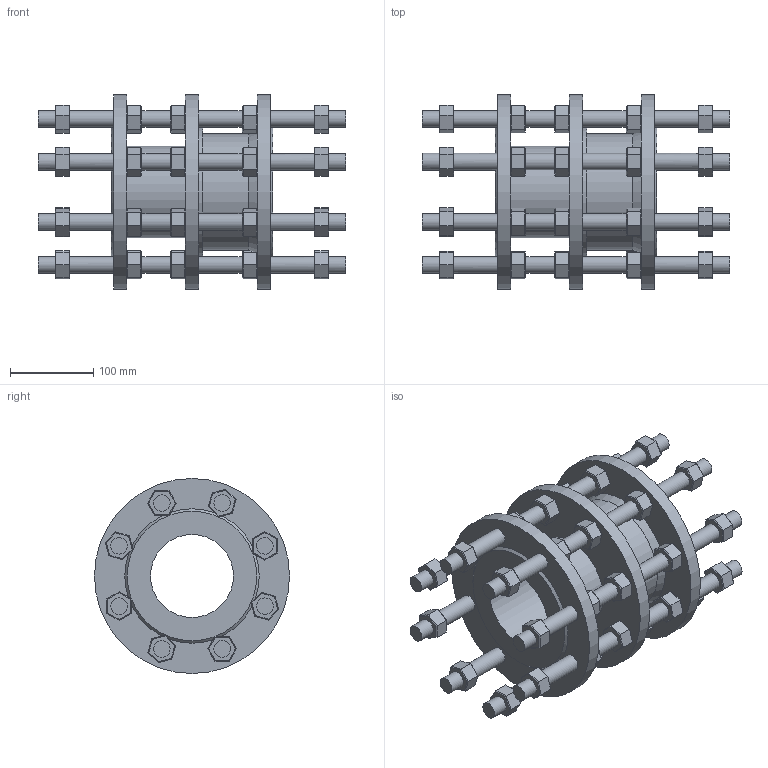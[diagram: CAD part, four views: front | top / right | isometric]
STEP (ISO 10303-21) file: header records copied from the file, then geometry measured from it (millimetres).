
FILE_DESCRIPTION (( 'STEP AP203' ), '1' );
FILE_NAME ('873010000741000.STEP', '2021-11-05T08:14:50', ( '' ), ( '' ), 'SwSTEP 2.0', 'SolidWorks 2020', '' );
FILE_SCHEMA (( 'CONFIG_CONTROL_DESIGN' ));
Length unit declared in the file: millimetre
Products named in the file (1): 873010000741000
Bounding box: 370 x 235 x 235 mm (x, y, z)
Volume: 3634143.8 mm3; surface area: 650116.3 mm2
Topology: 41 solids, 41 shells, 987 faces, 2115 edges, 1233 vertices
Faces by surface type: plane 825, cone 83, cylinder 79
Full cylindrical faces by diameter (mm): 18 x40, 20 x32, 100 x1, 110 x1, 140 x1, 156 x1, 235 x3
Entity records: 24769 total; most frequent: DIRECTION 4142, CARTESIAN_POINT 4114, ORIENTED_EDGE 3846, EDGE_CURVE 1923, LINE 1680, VECTOR 1680, EDGE_LOOP 1286, AXIS2_PLACEMENT_3D 1231
